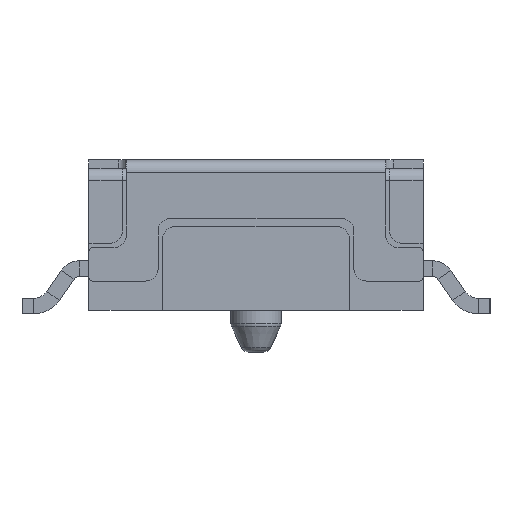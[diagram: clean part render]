
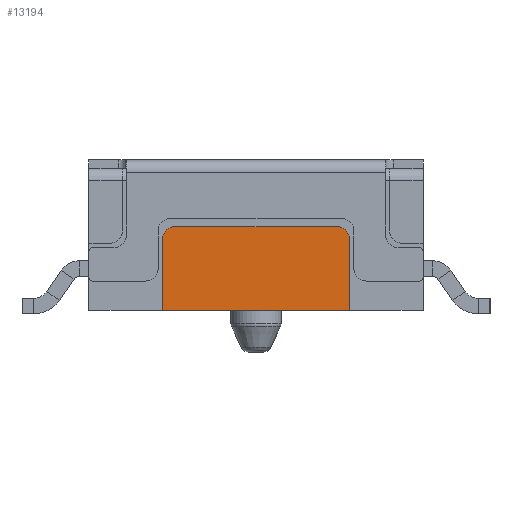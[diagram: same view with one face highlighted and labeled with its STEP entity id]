
A CAD part, front view. The second image highlights one B-rep face of the part: STEP entity #13194.
In plain terms, the highlighted planar face has unit normal (0, -1, 0).
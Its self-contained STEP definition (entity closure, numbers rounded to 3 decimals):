
#325 = CARTESIAN_POINT ( 'NONE',  ( 1.121, -3.05, 1. ) ) ;
#1339 = LINE ( 'NONE', #24167, #11824 ) ;
#2001 = VECTOR ( 'NONE', #20327, 1000. ) ;
#3145 = DIRECTION ( 'NONE',  ( 0., -1., 0. ) ) ;
#3192 = CARTESIAN_POINT ( 'NONE',  ( -2., -3.05, 0. ) ) ;
#3322 = CARTESIAN_POINT ( 'NONE',  ( -1.121, -3.05, 0. ) ) ;
#3486 = EDGE_CURVE ( 'NONE', #24336, #6514, #9930, .T. ) ;
#4148 = DIRECTION ( 'NONE',  ( 0., 0., 1. ) ) ;
#5685 = VERTEX_POINT ( 'NONE', #9588 ) ;
#6066 = CARTESIAN_POINT ( 'NONE',  ( 1.121, -3.05, 0.85 ) ) ;
#6120 = CIRCLE ( 'NONE', #17882, 0.15 ) ;
#6425 = FACE_OUTER_BOUND ( 'NONE', #10738, .T. ) ;
#6514 = VERTEX_POINT ( 'NONE', #9992 ) ;
#6710 = CARTESIAN_POINT ( 'NONE',  ( 0.971, -3.05, 0.85 ) ) ;
#7510 = DIRECTION ( 'NONE',  ( 1., 0., 0. ) ) ;
#8775 = VECTOR ( 'NONE', #7510, 1000. ) ;
#9588 = CARTESIAN_POINT ( 'NONE',  ( -0.971, -3.05, 1. ) ) ;
#9748 = CIRCLE ( 'NONE', #11481, 0.15 ) ;
#9930 = LINE ( 'NONE', #3322, #2001 ) ;
#9992 = CARTESIAN_POINT ( 'NONE',  ( -1.121, -3.05, 0.85 ) ) ;
#10133 = ORIENTED_EDGE ( 'NONE', *, *, #11379, .T. ) ;
#10137 = EDGE_CURVE ( 'NONE', #16093, #26481, #20999, .T. ) ;
#10499 = DIRECTION ( 'NONE',  ( 0., -1., 0. ) ) ;
#10557 = ORIENTED_EDGE ( 'NONE', *, *, #3486, .F. ) ;
#10629 = EDGE_CURVE ( 'NONE', #5685, #6514, #9748, .T. ) ;
#10738 = EDGE_LOOP ( 'NONE', ( #21223, #10133, #11707, #15083, #10557, #25010 ) ) ;
#10900 = AXIS2_PLACEMENT_3D ( 'NONE', #22766, #18442, #4148 ) ;
#11379 = EDGE_CURVE ( 'NONE', #16093, #16377, #6120, .T. ) ;
#11481 = AXIS2_PLACEMENT_3D ( 'NONE', #22179, #3145, #22312 ) ;
#11707 = ORIENTED_EDGE ( 'NONE', *, *, #21477, .F. ) ;
#11824 = VECTOR ( 'NONE', #13823, 1000. ) ;
#12295 = EDGE_CURVE ( 'NONE', #24336, #26481, #21820, .T. ) ;
#13006 = CARTESIAN_POINT ( 'NONE',  ( -1.121, -3.05, 0. ) ) ;
#13194 = ADVANCED_FACE ( 'NONE', ( #6425 ), #24789, .F. ) ;
#13823 = DIRECTION ( 'NONE',  ( 1., 0., 0. ) ) ;
#15083 = ORIENTED_EDGE ( 'NONE', *, *, #10629, .T. ) ;
#16093 = VERTEX_POINT ( 'NONE', #6066 ) ;
#16377 = VERTEX_POINT ( 'NONE', #18058 ) ;
#17046 = DIRECTION ( 'NONE',  ( 0., 0., -1. ) ) ;
#17882 = AXIS2_PLACEMENT_3D ( 'NONE', #6710, #10499, #21280 ) ;
#18058 = CARTESIAN_POINT ( 'NONE',  ( 0.971, -3.05, 1. ) ) ;
#18442 = DIRECTION ( 'NONE',  ( 0., 1., 0. ) ) ;
#19392 = CARTESIAN_POINT ( 'NONE',  ( 1.121, -3.05, 0. ) ) ;
#20327 = DIRECTION ( 'NONE',  ( 0., 0., 1. ) ) ;
#20999 = LINE ( 'NONE', #325, #25783 ) ;
#21223 = ORIENTED_EDGE ( 'NONE', *, *, #10137, .F. ) ;
#21280 = DIRECTION ( 'NONE',  ( 0., 0., 1. ) ) ;
#21477 = EDGE_CURVE ( 'NONE', #5685, #16377, #1339, .T. ) ;
#21820 = LINE ( 'NONE', #3192, #8775 ) ;
#22179 = CARTESIAN_POINT ( 'NONE',  ( -0.971, -3.05, 0.85 ) ) ;
#22312 = DIRECTION ( 'NONE',  ( 0., 0., 1. ) ) ;
#22766 = CARTESIAN_POINT ( 'NONE',  ( -2., -3.05, 1.7 ) ) ;
#24167 = CARTESIAN_POINT ( 'NONE',  ( -1.121, -3.05, 1. ) ) ;
#24336 = VERTEX_POINT ( 'NONE', #13006 ) ;
#24789 = PLANE ( 'NONE',  #10900 ) ;
#25010 = ORIENTED_EDGE ( 'NONE', *, *, #12295, .T. ) ;
#25783 = VECTOR ( 'NONE', #17046, 1000. ) ;
#26481 = VERTEX_POINT ( 'NONE', #19392 ) ;
